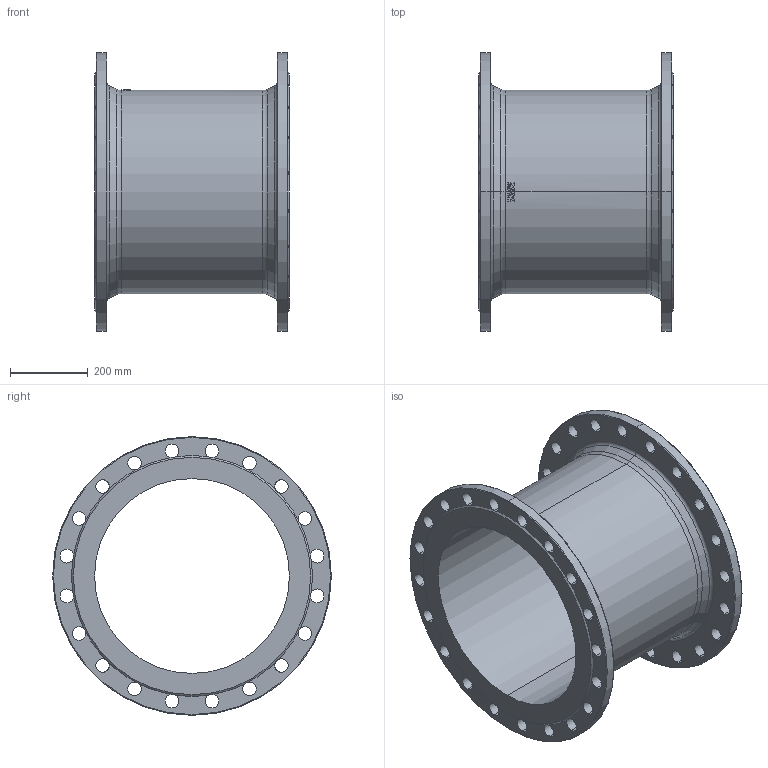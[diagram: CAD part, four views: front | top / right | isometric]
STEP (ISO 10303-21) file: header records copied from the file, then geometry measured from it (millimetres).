
FILE_DESCRIPTION (( 'STEP AP203' ), '1' );
FILE_NAME ('O_712_4810_DN500_1X_REV01.step', '2021-12-02T08:09:34', ( '' ), ( '' ), 'SwSTEP 2.0', 'SolidWorks 2019', '' );
FILE_SCHEMA (( 'CONFIG_CONTROL_DESIGN' ));
Length unit declared in the file: millimetre
Products named in the file (1): O_712_4810_DN500_1X_REV01
Bounding box: 500 x 715 x 715 mm (x, y, z)
Volume: 19462516 mm3; surface area: 2414755.8 mm2
Topology: 1 solids, 1 shells, 160 faces, 551 edges, 360 vertices
Faces by surface type: cylinder 93, plane 26, bspline 17, torus 16, cone 8
Entity records: 7382 total; most frequent: CARTESIAN_POINT 2303, ORIENTED_EDGE 1102, DIRECTION 1083, EDGE_CURVE 551, AXIS2_PLACEMENT_3D 470, VERTEX_POINT 360, CIRCLE 326, EDGE_LOOP 209
